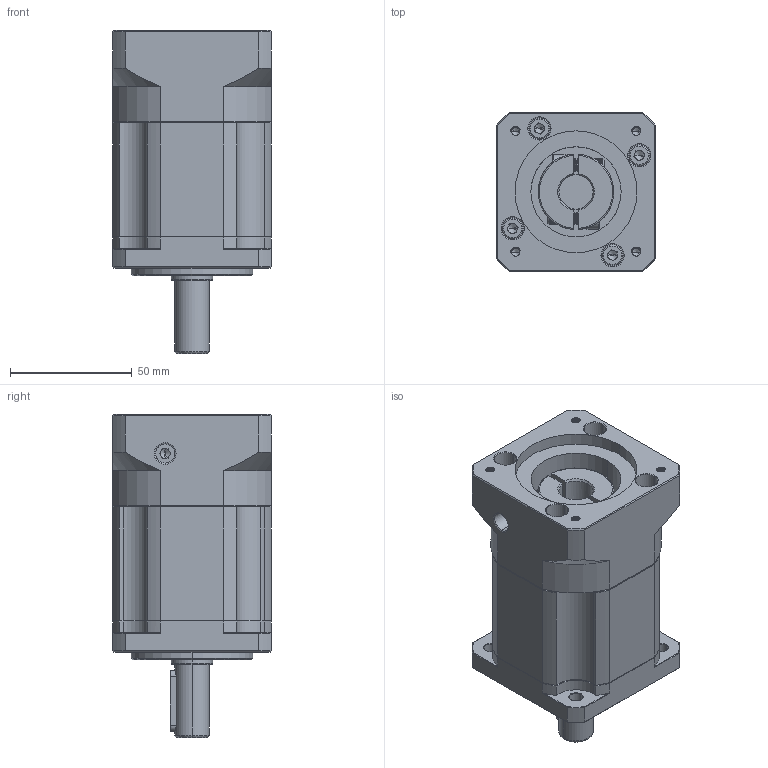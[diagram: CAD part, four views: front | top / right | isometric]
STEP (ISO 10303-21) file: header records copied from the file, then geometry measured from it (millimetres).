
FILE_DESCRIPTION (( 'STEP AP214' ), '1' );
FILE_NAME ('ZB060-D14-L2-P2-14-50-70-M4.step', '2023-08-16T07:01:12', ( '' ), ( '' ), 'SwSTEP 2.0', 'SolidWorks 2016', '' );
FILE_SCHEMA (( 'AUTOMOTIVE_DESIGN' ));
Length unit declared in the file: millimetre
Products named in the file (1): ZB060-D14-L2-P2-14-50-70-M4
Bounding box: 65 x 65 x 132.5 mm (x, y, z)
Volume: 329242.9 mm3; surface area: 58460 mm2
Topology: 6 solids, 6 shells, 2152 faces, 5796 edges, 3732 vertices
Faces by surface type: plane 1059, bspline 397, cylinder 381, cone 279, torus 36
Entity records: 114702 total; most frequent: CARTESIAN_POINT 40149, ORIENTED_EDGE 11532, DIRECTION 9082, EDGE_CURVE 5766, VERTEX_POINT 3732, VECTOR 3632, LINE 3632, AXIS2_PLACEMENT_3D 2725
